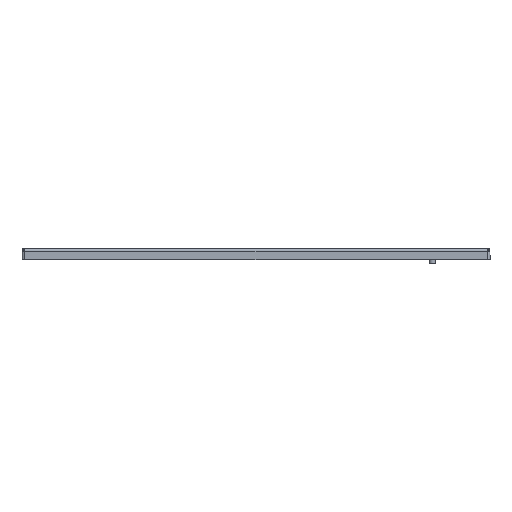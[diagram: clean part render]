
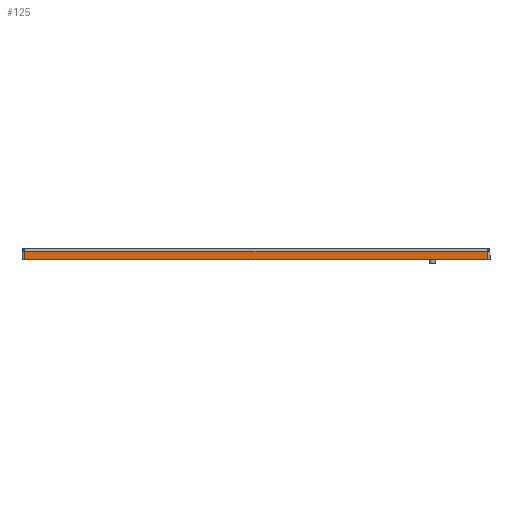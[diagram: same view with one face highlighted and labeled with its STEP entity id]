
A CAD part, left-side view. The second image highlights one B-rep face of the part: STEP entity #125.
In plain terms, the highlighted planar face has unit normal (-1, 0, 0).
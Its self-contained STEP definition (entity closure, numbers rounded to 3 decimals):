
#125=ADVANCED_FACE('',(#675),#677,.F.);
#675=FACE_BOUND('',#676,.T.);
#676=EDGE_LOOP('',(#2094,#2095,#2096,#2097));
#677=PLANE('',#678);
#678=AXIS2_PLACEMENT_3D('',#679,#680,#681);
#679=CARTESIAN_POINT('',(-193.2,0.,0.));
#680=DIRECTION('',(1.,0.,0.));
#681=DIRECTION('',(0.,0.,-1.));
#2094=ORIENTED_EDGE('',*,*,#2783,.F.);
#2095=ORIENTED_EDGE('',*,*,#2785,.F.);
#2096=ORIENTED_EDGE('',*,*,#2786,.F.);
#2097=ORIENTED_EDGE('',*,*,#2787,.F.);
#2783=EDGE_CURVE('',#3293,#3286,#3297,.T.);
#2785=EDGE_CURVE('',#3299,#3293,#3300,.T.);
#2786=EDGE_CURVE('',#3301,#3299,#3302,.T.);
#2787=EDGE_CURVE('',#3286,#3301,#3303,.T.);
#3286=VERTEX_POINT('',#4375);
#3293=VERTEX_POINT('',#4395);
#3297=LINE('',#4406,#4407);
#3299=VERTEX_POINT('',#4412);
#3300=LINE('',#4413,#4414);
#3301=VERTEX_POINT('',#4416);
#3302=LINE('',#4417,#4418);
#3303=LINE('',#4420,#4421);
#4375=CARTESIAN_POINT('',(-193.2,-295.3,-3.2));
#4395=CARTESIAN_POINT('',(-193.2,295.3,-3.2));
#4406=CARTESIAN_POINT('',(-193.2,295.3,-3.2));
#4407=VECTOR('',#4408,1.);
#4408=DIRECTION('',(0.,-1.,0.));
#4412=CARTESIAN_POINT('',(-193.2,295.3,-14.));
#4413=CARTESIAN_POINT('',(-193.2,295.3,-14.));
#4414=VECTOR('',#4415,1.);
#4415=DIRECTION('',(0.,0.,1.));
#4416=CARTESIAN_POINT('',(-193.2,-295.3,-14.));
#4417=CARTESIAN_POINT('',(-193.2,-295.3,-14.));
#4418=VECTOR('',#4419,1.);
#4419=DIRECTION('',(0.,1.,0.));
#4420=CARTESIAN_POINT('',(-193.2,-295.3,-3.2));
#4421=VECTOR('',#4422,1.);
#4422=DIRECTION('',(0.,0.,-1.));
